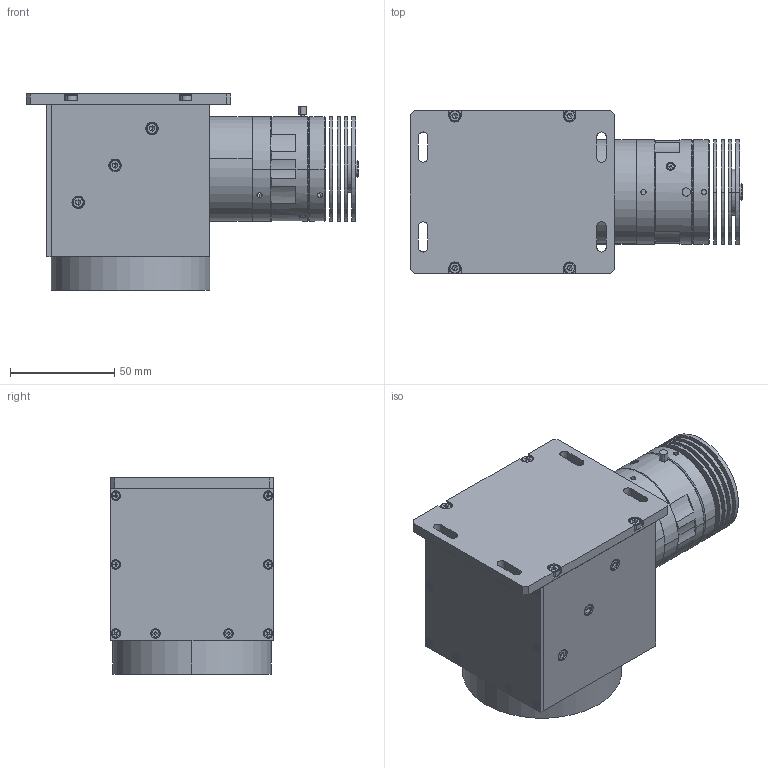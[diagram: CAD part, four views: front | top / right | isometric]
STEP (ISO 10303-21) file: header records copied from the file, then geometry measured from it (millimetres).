
FILE_DESCRIPTION (( 'STEP AP203' ), '1' );
FILE_NAME ('XF-PTI060-L90-(C).STEP', '2020-01-08T03:22:21', ( 'puyufan' ), ( '' ), 'SwSTEP 2.0', 'SolidWorks 2014', '' );
FILE_SCHEMA (( 'CONFIG_CONTROL_DESIGN' ));
Length unit declared in the file: millimetre
Products named in the file (1): XF-PTI060-L90-(C)
Bounding box: 159.02 x 78.5 x 94 mm (x, y, z)
Surface area: 79922.9 mm2 (no closed solid volume)
Topology: 0 solids, 47 shells, 524 faces, 1657 edges, 1113 vertices
Faces by surface type: plane 276, cylinder 156, cone 54, torus 28, bspline 8, sphere 2
Entity records: 21268 total; most frequent: CARTESIAN_POINT 6586, DIRECTION 3152, ORIENTED_EDGE 2688, EDGE_CURVE 1633, VERTEX_POINT 1113, AXIS2_PLACEMENT_3D 1094, VECTOR 964, LINE 964
